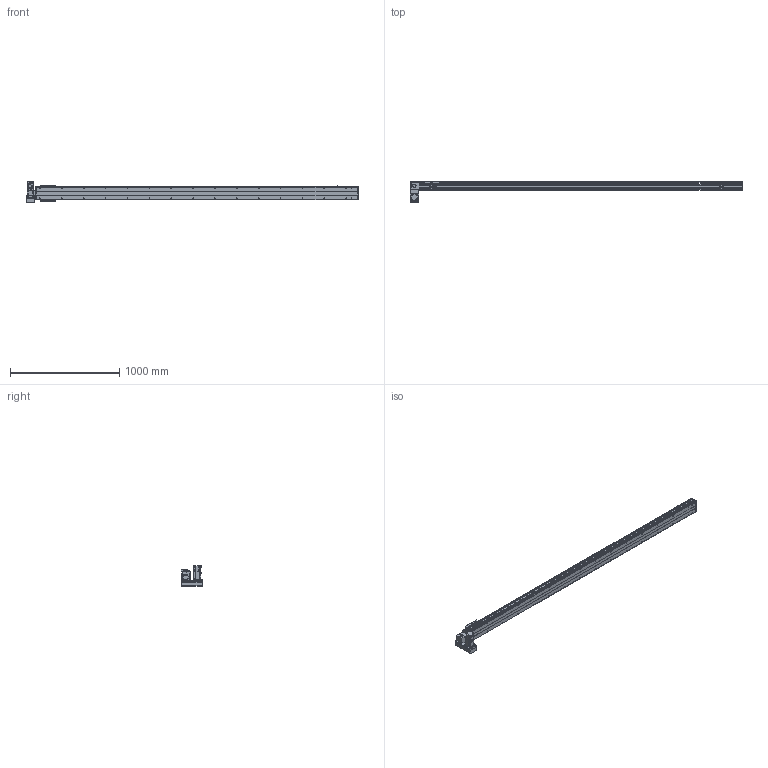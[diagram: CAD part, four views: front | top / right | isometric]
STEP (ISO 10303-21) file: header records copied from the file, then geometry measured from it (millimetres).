
FILE_DESCRIPTION( ( 'STEP AP214' ), '1' );
FILE_NAME( 'x:/temp/worker_6/temp/exporttempdir_3468_22_UerN6/format_0/PBS120-P40-S2650-LD-T40-C1-N(0).stp', '2022-06-08T08:14:36', ( 'License CC BY-ND 4.0' ), ( 'CADENAS' ), ' ', 'PARTsolutions', ' ' );
FILE_SCHEMA( ( 'AUTOMOTIVE_DESIGN { 1 0 10303 214 1 1 1 1 }' ) );
Length unit declared in the file: millimetre
Products named in the file (7): PBS120-P40-S2650-LD-T40-C1-N(0); _PBS120-S2650()_body; _PBS120T-LD_motors; _T40-p1; _PBS120_sliser; _PBS120_plant; _PBS120_sensor
Assembly tree (8 placements, depth 2):
  PBS120-P40-S2650-LD-T40-C1-N(0)
    _PBS120-S2650()_body
    _PBS120T-LD_motors
    _T40-p1
    _PBS120_sliser
    _PBS120_plant
    _PBS120_sensor  x3
Bounding box: 3036 x 196 x 189.7 mm (x, y, z)
Volume: 11331754.9 mm3; surface area: 2348872.9 mm2
Topology: 8 solids, 8 shells, 876 faces, 2236 edges, 1435 vertices
Faces by surface type: plane 565, cylinder 245, cone 64, torus 2
Full cylindrical faces by diameter (mm): 2.459 x6, 3.242 x4, 4 x2, 4.134 x4, 4.5 x10, 4.917 x36, 5.5 x11, 6 x2, 6.6 x1, 7 x2, 8.5 x4, 9 x4, 12 x1, 14 x1, 30 x2, 40 x1, 50 x2
Entity records: 28668 total; most frequent: DIRECTION 3932, CARTESIAN_POINT 3821, ORIENTED_EDGE 3598, EDGE_CURVE 1799, AXIS2_PLACEMENT_3D 1352, VERTEX_POINT 1241, LINE 1228, VECTOR 1228
